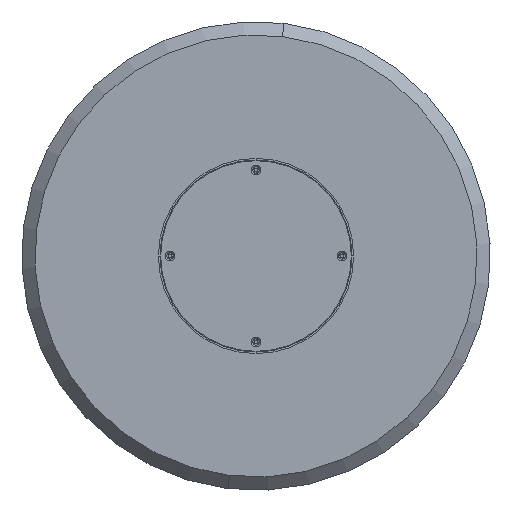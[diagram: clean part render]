
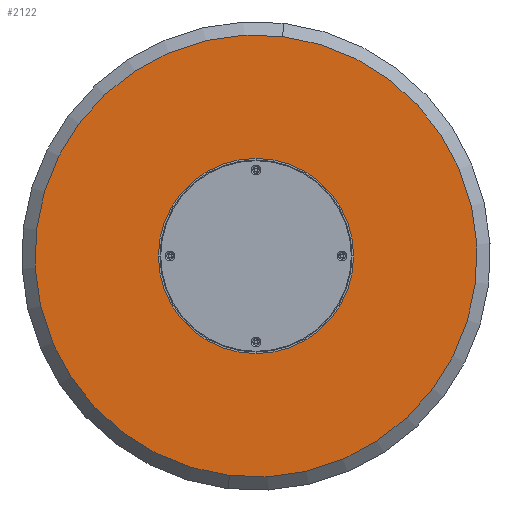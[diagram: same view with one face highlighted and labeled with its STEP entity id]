
A CAD part, front view. The second image highlights one B-rep face of the part: STEP entity #2122.
In plain terms, the highlighted planar face has unit normal (0, -1, 0).
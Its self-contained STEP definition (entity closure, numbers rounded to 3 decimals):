
#41 = AXIS2_PLACEMENT_3D ( 'NONE', #495, #3792, #3451 ) ;
#122 = DIRECTION ( 'NONE',  ( 0., 0., -1. ) ) ;
#130 = ORIENTED_EDGE ( 'NONE', *, *, #1031, .F. ) ;
#137 = CARTESIAN_POINT ( 'NONE',  ( 0., 0., 0. ) ) ;
#162 = FACE_BOUND ( 'NONE', #2553, .T. ) ;
#196 = CARTESIAN_POINT ( 'NONE',  ( 50., 0., -25.468 ) ) ;
#269 = DIRECTION ( 'NONE',  ( 0., 0., -1. ) ) ;
#294 = AXIS2_PLACEMENT_3D ( 'NONE', #4599, #1258, #3895 ) ;
#332 = VERTEX_POINT ( 'NONE', #1632 ) ;
#475 = EDGE_CURVE ( 'NONE', #3190, #4498, #2258, .T. ) ;
#495 = CARTESIAN_POINT ( 'NONE',  ( 0., 0., 57.735 ) ) ;
#506 = DIRECTION ( 'NONE',  ( 0., 0., -1. ) ) ;
#560 = DIRECTION ( 'NONE',  ( 0., -1., 0. ) ) ;
#593 = AXIS2_PLACEMENT_3D ( 'NONE', #137, #1601, #1672 ) ;
#664 = ORIENTED_EDGE ( 'NONE', *, *, #475, .F. ) ;
#702 = ORIENTED_EDGE ( 'NONE', *, *, #2899, .F. ) ;
#825 = CARTESIAN_POINT ( 'NONE',  ( 0., 0., 3.4 ) ) ;
#833 = DIRECTION ( 'NONE',  ( 0., 0., -1. ) ) ;
#894 = EDGE_CURVE ( 'NONE', #3744, #1921, #966, .T. ) ;
#900 = CIRCLE ( 'NONE', #2685, 3.4 ) ;
#907 = VERTEX_POINT ( 'NONE', #2357 ) ;
#909 = CARTESIAN_POINT ( 'NONE',  ( 50., 0., -28.868 ) ) ;
#915 = AXIS2_PLACEMENT_3D ( 'NONE', #1624, #3420, #3834 ) ;
#966 = CIRCLE ( 'NONE', #41, 3.4 ) ;
#977 = VERTEX_POINT ( 'NONE', #3546 ) ;
#1026 = VERTEX_POINT ( 'NONE', #196 ) ;
#1029 = CARTESIAN_POINT ( 'NONE',  ( 0., 0., 61.135 ) ) ;
#1031 = EDGE_CURVE ( 'NONE', #332, #2677, #2924, .T. ) ;
#1059 = CIRCLE ( 'NONE', #2079, 283. ) ;
#1084 = AXIS2_PLACEMENT_3D ( 'NONE', #2436, #4291, #3967 ) ;
#1145 = AXIS2_PLACEMENT_3D ( 'NONE', #3409, #1633, #122 ) ;
#1154 = AXIS2_PLACEMENT_3D ( 'NONE', #1952, #1593, #506 ) ;
#1258 = DIRECTION ( 'NONE',  ( 0., -1., 0. ) ) ;
#1276 = FACE_OUTER_BOUND ( 'NONE', #2678, .T. ) ;
#1302 = DIRECTION ( 'NONE',  ( 0., 0., -1. ) ) ;
#1398 = EDGE_CURVE ( 'NONE', #2677, #332, #3831, .T. ) ;
#1431 = EDGE_LOOP ( 'NONE', ( #130, #4587 ) ) ;
#1449 = CARTESIAN_POINT ( 'NONE',  ( 0., 0., 54.335 ) ) ;
#1457 = ORIENTED_EDGE ( 'NONE', *, *, #4059, .T. ) ;
#1593 = DIRECTION ( 'NONE',  ( 0., -1., 0. ) ) ;
#1601 = DIRECTION ( 'NONE',  ( 0., -1., 0. ) ) ;
#1602 = DIRECTION ( 'NONE',  ( 0., -1., 0. ) ) ;
#1624 = CARTESIAN_POINT ( 'NONE',  ( -50., 0., -28.868 ) ) ;
#1632 = CARTESIAN_POINT ( 'NONE',  ( 0., 0., -3.4 ) ) ;
#1633 = DIRECTION ( 'NONE',  ( 0., -1., 0. ) ) ;
#1649 = FACE_BOUND ( 'NONE', #2396, .T. ) ;
#1672 = DIRECTION ( 'NONE',  ( 0., 0., -1. ) ) ;
#1793 = AXIS2_PLACEMENT_3D ( 'NONE', #2117, #2793, #269 ) ;
#1846 = EDGE_CURVE ( 'NONE', #1921, #3744, #4094, .T. ) ;
#1921 = VERTEX_POINT ( 'NONE', #1449 ) ;
#1952 = CARTESIAN_POINT ( 'NONE',  ( 0., 0., 0. ) ) ;
#2079 = AXIS2_PLACEMENT_3D ( 'NONE', #3128, #560, #3857 ) ;
#2117 = CARTESIAN_POINT ( 'NONE',  ( -50., 0., -28.868 ) ) ;
#2122 = ADVANCED_FACE ( 'NONE', ( #4592, #162, #1649, #4638, #1276 ), #2807, .T. ) ;
#2148 = EDGE_CURVE ( 'NONE', #1026, #907, #900, .T. ) ;
#2200 = ORIENTED_EDGE ( 'NONE', *, *, #2679, .T. ) ;
#2258 = CIRCLE ( 'NONE', #1793, 3.4 ) ;
#2267 = VERTEX_POINT ( 'NONE', #2920 ) ;
#2357 = CARTESIAN_POINT ( 'NONE',  ( 50., 0., -32.268 ) ) ;
#2396 = EDGE_LOOP ( 'NONE', ( #702, #3793 ) ) ;
#2436 = CARTESIAN_POINT ( 'NONE',  ( 0., 0., 57.735 ) ) ;
#2553 = EDGE_LOOP ( 'NONE', ( #4165, #3288 ) ) ;
#2677 = VERTEX_POINT ( 'NONE', #825 ) ;
#2678 = EDGE_LOOP ( 'NONE', ( #2200, #1457 ) ) ;
#2679 = EDGE_CURVE ( 'NONE', #2267, #977, #1059, .T. ) ;
#2685 = AXIS2_PLACEMENT_3D ( 'NONE', #909, #4616, #1302 ) ;
#2780 = EDGE_LOOP ( 'NONE', ( #664, #4321 ) ) ;
#2793 = DIRECTION ( 'NONE',  ( 0., -1., 0. ) ) ;
#2807 = PLANE ( 'NONE',  #593 ) ;
#2899 = EDGE_CURVE ( 'NONE', #907, #1026, #3305, .T. ) ;
#2901 = CARTESIAN_POINT ( 'NONE',  ( -50., 0., -32.268 ) ) ;
#2920 = CARTESIAN_POINT ( 'NONE',  ( 0., 0., 283. ) ) ;
#2924 = CIRCLE ( 'NONE', #294, 3.4 ) ;
#3018 = CARTESIAN_POINT ( 'NONE',  ( 0., 0., 0. ) ) ;
#3060 = AXIS2_PLACEMENT_3D ( 'NONE', #3018, #1602, #833 ) ;
#3128 = CARTESIAN_POINT ( 'NONE',  ( 0., 0., 0. ) ) ;
#3190 = VERTEX_POINT ( 'NONE', #2901 ) ;
#3223 = CARTESIAN_POINT ( 'NONE',  ( -50., 0., -25.468 ) ) ;
#3288 = ORIENTED_EDGE ( 'NONE', *, *, #894, .F. ) ;
#3305 = CIRCLE ( 'NONE', #1145, 3.4 ) ;
#3409 = CARTESIAN_POINT ( 'NONE',  ( 50., 0., -28.868 ) ) ;
#3420 = DIRECTION ( 'NONE',  ( 0., -1., 0. ) ) ;
#3451 = DIRECTION ( 'NONE',  ( 0., 0., -1. ) ) ;
#3497 = EDGE_CURVE ( 'NONE', #4498, #3190, #3771, .T. ) ;
#3546 = CARTESIAN_POINT ( 'NONE',  ( 0., 0., -283. ) ) ;
#3744 = VERTEX_POINT ( 'NONE', #1029 ) ;
#3771 = CIRCLE ( 'NONE', #915, 3.4 ) ;
#3792 = DIRECTION ( 'NONE',  ( 0., -1., 0. ) ) ;
#3793 = ORIENTED_EDGE ( 'NONE', *, *, #2148, .F. ) ;
#3831 = CIRCLE ( 'NONE', #3060, 3.4 ) ;
#3834 = DIRECTION ( 'NONE',  ( 0., 0., -1. ) ) ;
#3857 = DIRECTION ( 'NONE',  ( 0., 0., -1. ) ) ;
#3895 = DIRECTION ( 'NONE',  ( 0., 0., -1. ) ) ;
#3967 = DIRECTION ( 'NONE',  ( 0., 0., -1. ) ) ;
#4059 = EDGE_CURVE ( 'NONE', #977, #2267, #4333, .T. ) ;
#4094 = CIRCLE ( 'NONE', #1084, 3.4 ) ;
#4165 = ORIENTED_EDGE ( 'NONE', *, *, #1846, .F. ) ;
#4291 = DIRECTION ( 'NONE',  ( 0., -1., 0. ) ) ;
#4321 = ORIENTED_EDGE ( 'NONE', *, *, #3497, .F. ) ;
#4333 = CIRCLE ( 'NONE', #1154, 283. ) ;
#4498 = VERTEX_POINT ( 'NONE', #3223 ) ;
#4587 = ORIENTED_EDGE ( 'NONE', *, *, #1398, .F. ) ;
#4592 = FACE_BOUND ( 'NONE', #2780, .T. ) ;
#4599 = CARTESIAN_POINT ( 'NONE',  ( 0., 0., 0. ) ) ;
#4616 = DIRECTION ( 'NONE',  ( 0., -1., 0. ) ) ;
#4638 = FACE_BOUND ( 'NONE', #1431, .T. ) ;
